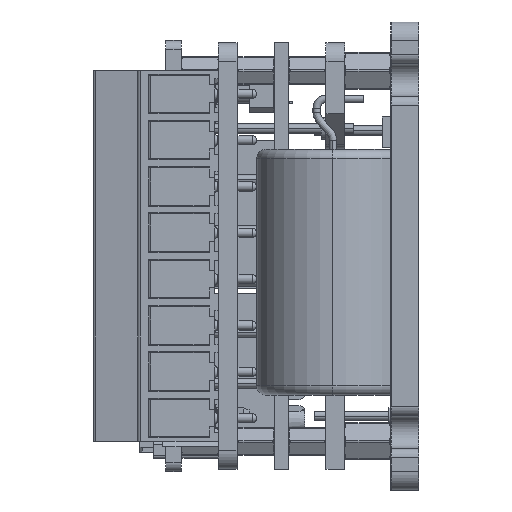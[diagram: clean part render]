
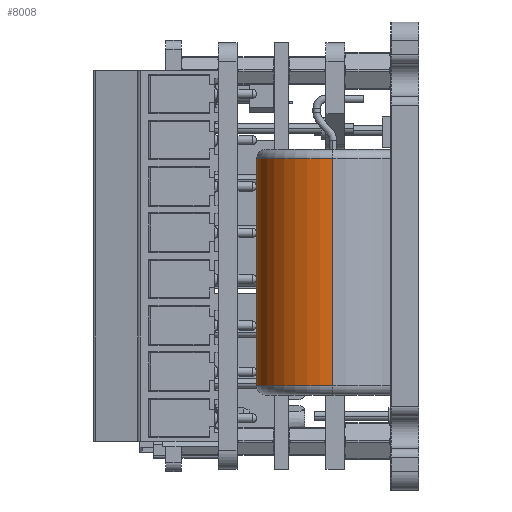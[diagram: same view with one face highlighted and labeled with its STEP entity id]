
A CAD part, left-side view. The second image highlights one B-rep face of the part: STEP entity #8008.
In plain terms, the highlighted cylindrical face has radius 8.25 mm (diameter 16.5 mm), a partial arc.
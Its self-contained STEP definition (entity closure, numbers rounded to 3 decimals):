
#6824=DIRECTION('',(0.,0.,1.));
#6825=VECTOR('',#6824,24.5);
#6826=CARTESIAN_POINT('',(-37.,9.25,-14.));
#6827=LINE('',#6826,#6825);
#7135=CARTESIAN_POINT('',(-28.75,9.25,10.5));
#7136=DIRECTION('',(0.,0.,1.));
#7137=DIRECTION('',(1.,0.,0.));
#7138=AXIS2_PLACEMENT_3D('',#7135,#7136,#7137);
#7140=CARTESIAN_POINT('',(-28.75,9.25,-14.));
#7141=DIRECTION('',(0.,0.,-1.));
#7142=DIRECTION('',(-1.,0.,0.));
#7143=AXIS2_PLACEMENT_3D('',#7140,#7141,#7142);
#7145=DIRECTION('',(0.,0.,1.));
#7146=VECTOR('',#7145,24.5);
#7147=CARTESIAN_POINT('',(-20.5,9.25,-14.));
#7148=LINE('',#7147,#7146);
#7161=CARTESIAN_POINT('',(-37.,9.25,10.5));
#7162=CARTESIAN_POINT('',(-20.5,9.25,10.5));
#7163=VERTEX_POINT('',#7161);
#7164=VERTEX_POINT('',#7162);
#7169=CARTESIAN_POINT('',(-37.,9.25,-14.));
#7170=CARTESIAN_POINT('',(-20.5,9.25,-14.));
#7171=VERTEX_POINT('',#7169);
#7172=VERTEX_POINT('',#7170);
#7997=CARTESIAN_POINT('',(-28.75,9.25,-15.));
#7998=DIRECTION('',(0.,0.,1.));
#7999=DIRECTION('',(1.,0.,0.));
#8000=AXIS2_PLACEMENT_3D('',#7997,#7998,#7999);
#8001=CYLINDRICAL_SURFACE('',#8000,8.25);
#8002=ORIENTED_EDGE('',*,*,#7991,.T.);
#8003=ORIENTED_EDGE('',*,*,#7275,.F.);
#8004=ORIENTED_EDGE('',*,*,#7245,.T.);
#8005=ORIENTED_EDGE('',*,*,#7272,.T.);
#8006=EDGE_LOOP('',(#8002,#8003,#8004,#8005));
#8007=FACE_OUTER_BOUND('',#8006,.F.);
#8008=ADVANCED_FACE('',(#8007),#8001,.T.);
#7139=CIRCLE('',#7138,8.25);
#7144=CIRCLE('',#7143,8.25);
#7245=EDGE_CURVE('',#7171,#7172,#7144,.T.);
#7272=EDGE_CURVE('',#7172,#7164,#7148,.T.);
#7275=EDGE_CURVE('',#7171,#7163,#6827,.T.);
#7991=EDGE_CURVE('',#7164,#7163,#7139,.T.);
